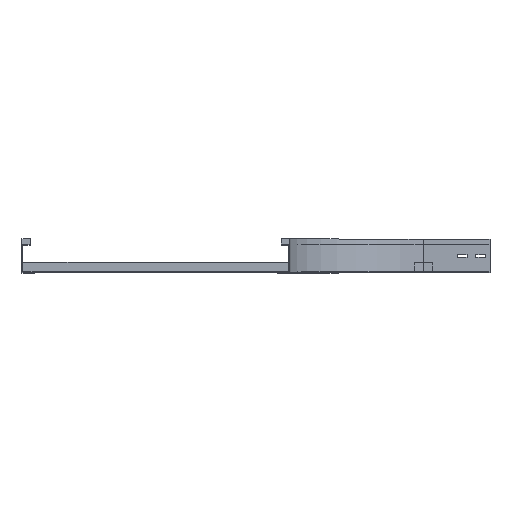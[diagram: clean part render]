
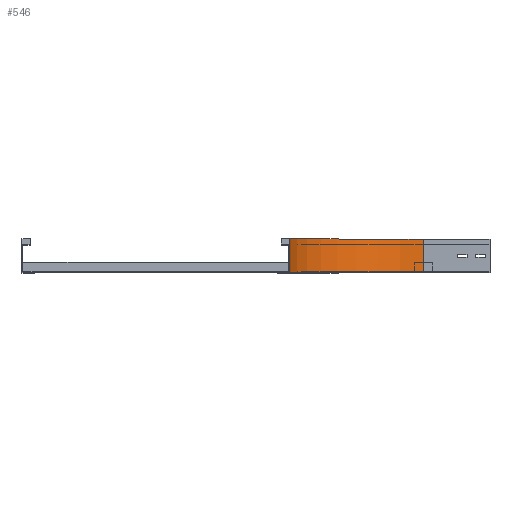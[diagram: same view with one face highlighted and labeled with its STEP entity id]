
A CAD part, top view. The second image highlights one B-rep face of the part: STEP entity #546.
In plain terms, the highlighted cylindrical face has radius 300 mm (diameter 600 mm), a partial arc.
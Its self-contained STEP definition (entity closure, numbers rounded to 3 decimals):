
#200 = CARTESIAN_POINT ( 'NONE',  ( 0., 75., -150. ) ) ;
#268 = DIRECTION ( 'NONE',  ( 0., -1., 0. ) ) ;
#303 = VECTOR ( 'NONE', #1128, 1000. ) ;
#430 = ORIENTED_EDGE ( 'NONE', *, *, #1025, .F. ) ;
#473 = CARTESIAN_POINT ( 'NONE',  ( 300., 0., -450. ) ) ;
#533 = FACE_OUTER_BOUND ( 'NONE', #2597, .T. ) ;
#546 = ADVANCED_FACE ( 'NONE', ( #533 ), #3472, .F. ) ;
#586 = VERTEX_POINT ( 'NONE', #2010 ) ;
#590 = DIRECTION ( 'NONE',  ( -1., 0., 0. ) ) ;
#800 = DIRECTION ( 'NONE',  ( 0., -1., 0. ) ) ;
#889 = VERTEX_POINT ( 'NONE', #2795 ) ;
#932 = VERTEX_POINT ( 'NONE', #473 ) ;
#1007 = VERTEX_POINT ( 'NONE', #200 ) ;
#1025 = EDGE_CURVE ( 'NONE', #1007, #889, #1210, .T. ) ;
#1109 = LINE ( 'NONE', #2323, #303 ) ;
#1128 = DIRECTION ( 'NONE',  ( 0., 1., 0. ) ) ;
#1210 = CIRCLE ( 'NONE', #1763, 300. ) ;
#1404 = CARTESIAN_POINT ( 'NONE',  ( 300., 0., -150. ) ) ;
#1538 = ORIENTED_EDGE ( 'NONE', *, *, #3311, .T. ) ;
#1563 = LINE ( 'NONE', #1795, #3669 ) ;
#1594 = EDGE_CURVE ( 'NONE', #932, #889, #1563, .T. ) ;
#1763 = AXIS2_PLACEMENT_3D ( 'NONE', #3545, #268, #3830 ) ;
#1795 = CARTESIAN_POINT ( 'NONE',  ( 300., 0., -450. ) ) ;
#1811 = AXIS2_PLACEMENT_3D ( 'NONE', #1404, #800, #2343 ) ;
#1827 = AXIS2_PLACEMENT_3D ( 'NONE', #3017, #2073, #590 ) ;
#2010 = CARTESIAN_POINT ( 'NONE',  ( 0., 0., -150. ) ) ;
#2073 = DIRECTION ( 'NONE',  ( 0., -1., 0. ) ) ;
#2174 = EDGE_CURVE ( 'NONE', #586, #1007, #1109, .T. ) ;
#2323 = CARTESIAN_POINT ( 'NONE',  ( 0., 0., -150. ) ) ;
#2343 = DIRECTION ( 'NONE',  ( 0., 0., -1. ) ) ;
#2520 = ORIENTED_EDGE ( 'NONE', *, *, #1594, .T. ) ;
#2597 = EDGE_LOOP ( 'NONE', ( #430, #3041, #1538, #2520 ) ) ;
#2795 = CARTESIAN_POINT ( 'NONE',  ( 300., 75., -450. ) ) ;
#3017 = CARTESIAN_POINT ( 'NONE',  ( 300., 0., -150. ) ) ;
#3041 = ORIENTED_EDGE ( 'NONE', *, *, #2174, .F. ) ;
#3311 = EDGE_CURVE ( 'NONE', #586, #932, #3500, .T. ) ;
#3472 = CYLINDRICAL_SURFACE ( 'NONE', #1811, 300. ) ;
#3500 = CIRCLE ( 'NONE', #1827, 300. ) ;
#3545 = CARTESIAN_POINT ( 'NONE',  ( 300., 75., -150. ) ) ;
#3669 = VECTOR ( 'NONE', #3679, 1000. ) ;
#3679 = DIRECTION ( 'NONE',  ( 0., 1., 0. ) ) ;
#3830 = DIRECTION ( 'NONE',  ( -1., 0., 0. ) ) ;
